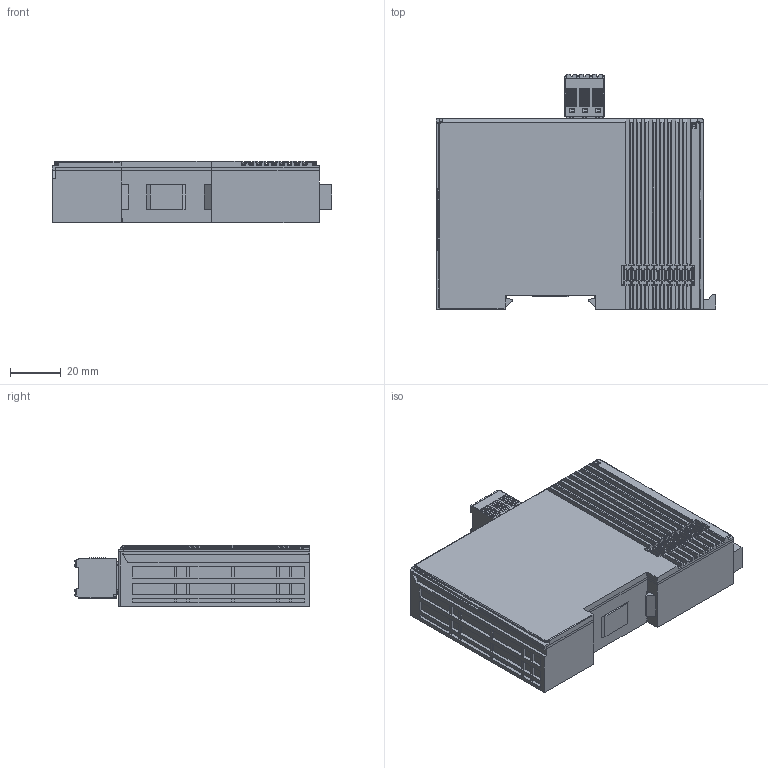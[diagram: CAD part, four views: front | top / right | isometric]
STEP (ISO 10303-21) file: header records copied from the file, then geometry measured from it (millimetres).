
FILE_DESCRIPTION((''),'2;1');
FILE_NAME('PRT0007','2024-05-22T15:17:21',('Administrator'),(''),'CREO PARAMETRIC BY PTC INC, 2018050','CREO PARAMETRIC BY PTC INC, 2018050','');
FILE_SCHEMA(('CONFIG_CONTROL_DESIGN'));
Products named in the file (1): PRT0007
Bounding box: 110 x 92.4 x 24 mm (x, y, z)
Volume: 161645.8 mm3; surface area: 48462.7 mm2
Topology: 3 solids, 11 shells, 3136 faces, 8253 edges, 5083 vertices
Faces by surface type: plane 1705, cylinder 971, bspline 192, sphere 129, torus 108, cone 31
Entity records: 103550 total; most frequent: CARTESIAN_POINT 28011, ORIENTED_EDGE 16232, DIRECTION 15050, EDGE_CURVE 8135, VECTOR 5360, LINE 5360, VERTEX_POINT 5083, AXIS2_PLACEMENT_3D 4845
